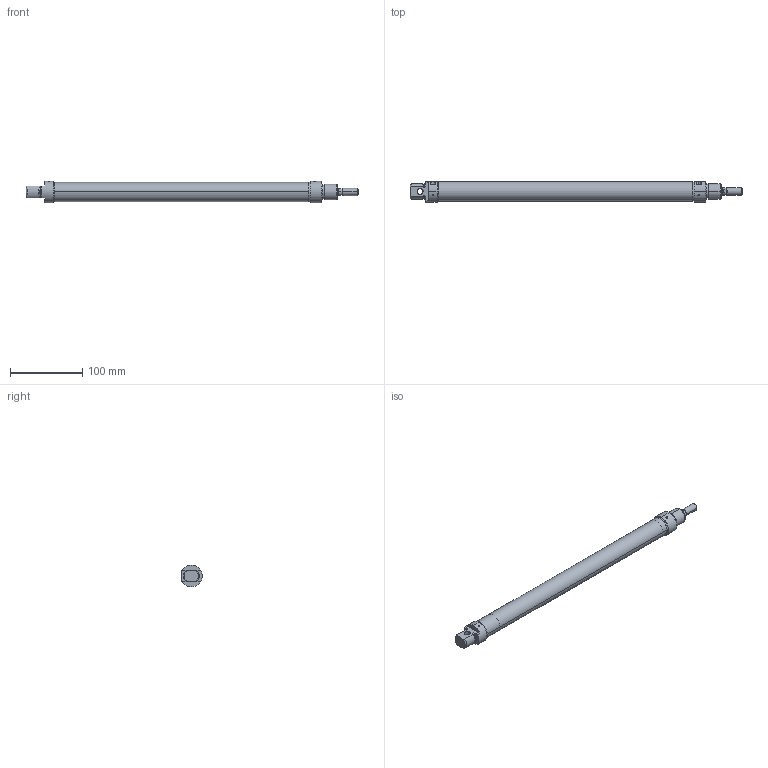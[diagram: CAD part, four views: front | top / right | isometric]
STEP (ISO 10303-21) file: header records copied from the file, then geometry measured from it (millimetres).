
FILE_DESCRIPTION (( 'STEP AP203' ), '1' );
FILE_NAME ('MH0250320A.step', '2012-10-17T16:40:35', ( '' ), ( '' ), 'SwSTEP 2.0', 'SolidWorks 2012', '' );
FILE_SCHEMA (( 'CONFIG_CONTROL_DESIGN' ));
Length unit declared in the file: millimetre
Products named in the file (1): MH0250320A
Bounding box: 460.5 x 28.5 x 30 mm (x, y, z)
Volume: 101492.5 mm3; surface area: 75985.8 mm2
Topology: 7 solids, 9 shells, 253 faces, 579 edges, 360 vertices
Faces by surface type: cylinder 101, plane 66, cone 54, torus 28, sphere 4
Entity records: 7636 total; most frequent: CARTESIAN_POINT 1733, DIRECTION 1327, ORIENTED_EDGE 1138, EDGE_CURVE 569, AXIS2_PLACEMENT_3D 554, VERTEX_POINT 354, CIRCLE 300, EDGE_LOOP 287
